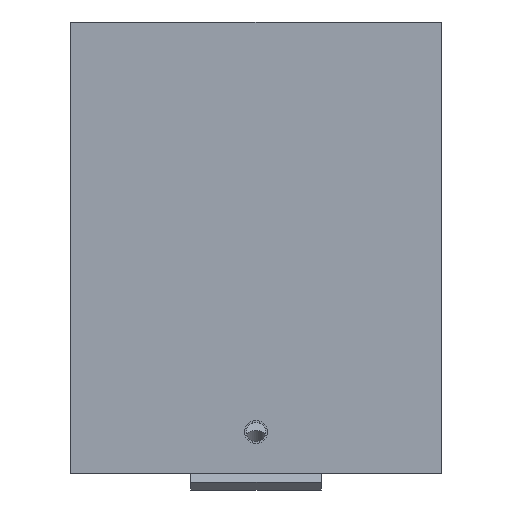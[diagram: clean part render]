
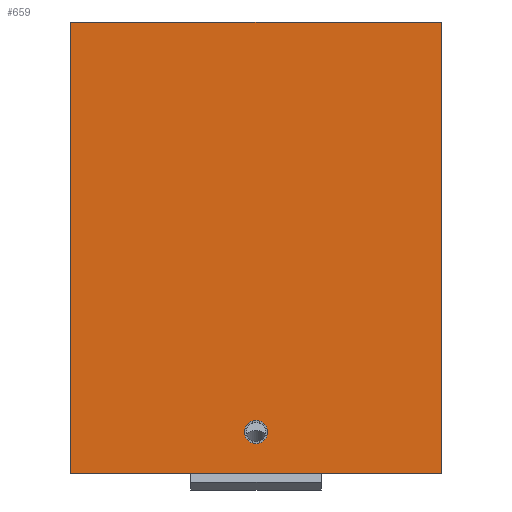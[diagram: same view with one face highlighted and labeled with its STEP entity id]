
A CAD part, top view. The second image highlights one B-rep face of the part: STEP entity #659.
In plain terms, the highlighted planar face has unit normal (0, 0, 1) as drawn and (0, 1, 0) by its records, which use the part's own axes.
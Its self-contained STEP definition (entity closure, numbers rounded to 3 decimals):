
#88 = PLANE('',#89);
#89 = AXIS2_PLACEMENT_3D('',#90,#91,#92);
#90 = CARTESIAN_POINT('',(-13.875,-34.,50.625));
#91 = DIRECTION('',(-1.,0.,0.));
#92 = DIRECTION('',(0.,0.,1.));
#120 = PLANE('',#121);
#121 = AXIS2_PLACEMENT_3D('',#122,#123,#124);
#122 = CARTESIAN_POINT('',(-12.375,-9.5,-1.125));
#123 = DIRECTION('',(0.,0.,1.));
#124 = DIRECTION('',(0.,-1.,0.));
#265 = VERTEX_POINT('',#266);
#266 = CARTESIAN_POINT('',(-13.875,2.,102.375));
#280 = PLANE('',#281);
#281 = AXIS2_PLACEMENT_3D('',#282,#283,#284);
#282 = CARTESIAN_POINT('',(-12.375,-58.5,102.375));
#283 = DIRECTION('',(0.,0.,-1.));
#284 = DIRECTION('',(0.,1.,0.));
#292 = EDGE_CURVE('',#265,#293,#295,.T.);
#293 = VERTEX_POINT('',#294);
#294 = CARTESIAN_POINT('',(-13.875,2.,-1.125));
#295 = SURFACE_CURVE('',#296,(#300,#307),.PCURVE_S1.);
#296 = LINE('',#297,#298);
#297 = CARTESIAN_POINT('',(-13.875,2.,24.75));
#298 = VECTOR('',#299,1.);
#299 = DIRECTION('',(0.,0.,-1.));
#300 = PCURVE('',#88,#301);
#301 = DEFINITIONAL_REPRESENTATION('',(#302),#306);
#302 = LINE('',#303,#304);
#303 = CARTESIAN_POINT('',(-25.875,36.));
#304 = VECTOR('',#305,1.);
#305 = DIRECTION('',(-1.,0.));
#306 = ( GEOMETRIC_REPRESENTATION_CONTEXT(2) 
PARAMETRIC_REPRESENTATION_CONTEXT() REPRESENTATION_CONTEXT('2D SPACE',''
  ) );
#307 = PCURVE('',#308,#313);
#308 = PLANE('',#309);
#309 = AXIS2_PLACEMENT_3D('',#310,#311,#312);
#310 = CARTESIAN_POINT('',(-2.375,2.,-1.125));
#311 = DIRECTION('',(0.,1.,0.));
#312 = DIRECTION('',(0.,0.,1.));
#313 = DEFINITIONAL_REPRESENTATION('',(#314),#318);
#314 = LINE('',#315,#316);
#315 = CARTESIAN_POINT('',(25.875,-11.5));
#316 = VECTOR('',#317,1.);
#317 = DIRECTION('',(-1.,0.));
#318 = ( GEOMETRIC_REPRESENTATION_CONTEXT(2) 
PARAMETRIC_REPRESENTATION_CONTEXT() REPRESENTATION_CONTEXT('2D SPACE',''
  ) );
#484 = VERTEX_POINT('',#485);
#485 = CARTESIAN_POINT('',(71.125,2.,-1.125));
#499 = PLANE('',#500);
#500 = AXIS2_PLACEMENT_3D('',#501,#502,#503);
#501 = CARTESIAN_POINT('',(71.125,-34.,50.625));
#502 = DIRECTION('',(-1.,0.,-0.));
#503 = DIRECTION('',(0.,0.,-1.));
#511 = EDGE_CURVE('',#293,#484,#512,.T.);
#512 = SURFACE_CURVE('',#513,(#517,#524),.PCURVE_S1.);
#513 = LINE('',#514,#515);
#514 = CARTESIAN_POINT('',(-13.875,2.,-1.125));
#515 = VECTOR('',#516,1.);
#516 = DIRECTION('',(1.,0.,0.));
#517 = PCURVE('',#120,#518);
#518 = DEFINITIONAL_REPRESENTATION('',(#519),#523);
#519 = LINE('',#520,#521);
#520 = CARTESIAN_POINT('',(-11.5,-1.5));
#521 = VECTOR('',#522,1.);
#522 = DIRECTION('',(0.,1.));
#523 = ( GEOMETRIC_REPRESENTATION_CONTEXT(2) 
PARAMETRIC_REPRESENTATION_CONTEXT() REPRESENTATION_CONTEXT('2D SPACE',''
  ) );
#524 = PCURVE('',#308,#525);
#525 = DEFINITIONAL_REPRESENTATION('',(#526),#530);
#526 = LINE('',#527,#528);
#527 = CARTESIAN_POINT('',(0.,-11.5));
#528 = VECTOR('',#529,1.);
#529 = DIRECTION('',(0.,1.));
#530 = ( GEOMETRIC_REPRESENTATION_CONTEXT(2) 
PARAMETRIC_REPRESENTATION_CONTEXT() REPRESENTATION_CONTEXT('2D SPACE',''
  ) );
#659 = ADVANCED_FACE('',(#660,#707),#308,.T.);
#660 = FACE_BOUND('',#661,.T.);
#661 = EDGE_LOOP('',(#662,#663,#664,#687));
#662 = ORIENTED_EDGE('',*,*,#511,.F.);
#663 = ORIENTED_EDGE('',*,*,#292,.F.);
#664 = ORIENTED_EDGE('',*,*,#665,.F.);
#665 = EDGE_CURVE('',#666,#265,#668,.T.);
#666 = VERTEX_POINT('',#667);
#667 = CARTESIAN_POINT('',(71.125,2.,102.375));
#668 = SURFACE_CURVE('',#669,(#673,#680),.PCURVE_S1.);
#669 = LINE('',#670,#671);
#670 = CARTESIAN_POINT('',(71.125,2.,102.375));
#671 = VECTOR('',#672,1.);
#672 = DIRECTION('',(-1.,0.,0.));
#673 = PCURVE('',#308,#674);
#674 = DEFINITIONAL_REPRESENTATION('',(#675),#679);
#675 = LINE('',#676,#677);
#676 = CARTESIAN_POINT('',(103.5,73.5));
#677 = VECTOR('',#678,1.);
#678 = DIRECTION('',(0.,-1.));
#679 = ( GEOMETRIC_REPRESENTATION_CONTEXT(2) 
PARAMETRIC_REPRESENTATION_CONTEXT() REPRESENTATION_CONTEXT('2D SPACE',''
  ) );
#680 = PCURVE('',#280,#681);
#681 = DEFINITIONAL_REPRESENTATION('',(#682),#686);
#682 = LINE('',#683,#684);
#683 = CARTESIAN_POINT('',(60.5,83.5));
#684 = VECTOR('',#685,1.);
#685 = DIRECTION('',(0.,-1.));
#686 = ( GEOMETRIC_REPRESENTATION_CONTEXT(2) 
PARAMETRIC_REPRESENTATION_CONTEXT() REPRESENTATION_CONTEXT('2D SPACE',''
  ) );
#687 = ORIENTED_EDGE('',*,*,#688,.F.);
#688 = EDGE_CURVE('',#484,#666,#689,.T.);
#689 = SURFACE_CURVE('',#690,(#694,#700),.PCURVE_S1.);
#690 = LINE('',#691,#692);
#691 = CARTESIAN_POINT('',(71.125,2.,24.75));
#692 = VECTOR('',#693,1.);
#693 = DIRECTION('',(0.,0.,1.));
#694 = PCURVE('',#308,#695);
#695 = DEFINITIONAL_REPRESENTATION('',(#696),#699);
#696 = B_SPLINE_CURVE_WITH_KNOTS('',1,(#697,#698),.UNSPECIFIED.,.F.,.F.,
  (2,2),(-130.689,182.439),.PIECEWISE_BEZIER_KNOTS.);
#697 = CARTESIAN_POINT('',(-104.814,73.5));
#698 = CARTESIAN_POINT('',(208.314,73.5));
#699 = ( GEOMETRIC_REPRESENTATION_CONTEXT(2) 
PARAMETRIC_REPRESENTATION_CONTEXT() REPRESENTATION_CONTEXT('2D SPACE',''
  ) );
#700 = PCURVE('',#499,#701);
#701 = DEFINITIONAL_REPRESENTATION('',(#702),#706);
#702 = LINE('',#703,#704);
#703 = CARTESIAN_POINT('',(25.875,-36.));
#704 = VECTOR('',#705,1.);
#705 = DIRECTION('',(-1.,0.));
#706 = ( GEOMETRIC_REPRESENTATION_CONTEXT(2) 
PARAMETRIC_REPRESENTATION_CONTEXT() REPRESENTATION_CONTEXT('2D SPACE',''
  ) );
#707 = FACE_BOUND('',#708,.T.);
#708 = EDGE_LOOP('',(#709));
#709 = ORIENTED_EDGE('',*,*,#710,.T.);
#710 = EDGE_CURVE('',#711,#711,#713,.T.);
#711 = VERTEX_POINT('',#712);
#712 = CARTESIAN_POINT('',(28.625,2.,5.725));
#713 = SURFACE_CURVE('',#714,(#719,#730),.PCURVE_S1.);
#714 = CIRCLE('',#715,2.65);
#715 = AXIS2_PLACEMENT_3D('',#716,#717,#718);
#716 = CARTESIAN_POINT('',(28.625,2.,8.375));
#717 = DIRECTION('',(0.,-1.,0.));
#718 = DIRECTION('',(0.,0.,-1.));
#719 = PCURVE('',#308,#720);
#720 = DEFINITIONAL_REPRESENTATION('',(#721),#729);
#721 = ( BOUNDED_CURVE() B_SPLINE_CURVE(2,(#722,#723,#724,#725,#726,#727
,#728),.UNSPECIFIED.,.T.,.F.) B_SPLINE_CURVE_WITH_KNOTS((1,2,2,2,2,1),(
    -2.094,0.,2.094,4.189,6.283,
8.378),.UNSPECIFIED.) CURVE() GEOMETRIC_REPRESENTATION_ITEM() 
RATIONAL_B_SPLINE_CURVE((1.,0.5,1.,0.5,1.,0.5,1.)) REPRESENTATION_ITEM(
  '') );
#722 = CARTESIAN_POINT('',(6.85,31.));
#723 = CARTESIAN_POINT('',(6.85,35.59));
#724 = CARTESIAN_POINT('',(10.825,33.295));
#725 = CARTESIAN_POINT('',(14.8,31.));
#726 = CARTESIAN_POINT('',(10.825,28.705));
#727 = CARTESIAN_POINT('',(6.85,26.41));
#728 = CARTESIAN_POINT('',(6.85,31.));
#729 = ( GEOMETRIC_REPRESENTATION_CONTEXT(2) 
PARAMETRIC_REPRESENTATION_CONTEXT() REPRESENTATION_CONTEXT('2D SPACE',''
  ) );
#730 = PCURVE('',#731,#736);
#731 = CYLINDRICAL_SURFACE('',#732,2.65);
#732 = AXIS2_PLACEMENT_3D('',#733,#734,#735);
#733 = CARTESIAN_POINT('',(28.625,-4.625,8.375));
#734 = DIRECTION('',(0.,-1.,0.));
#735 = DIRECTION('',(0.,0.,-1.));
#736 = DEFINITIONAL_REPRESENTATION('',(#737),#741);
#737 = LINE('',#738,#739);
#738 = CARTESIAN_POINT('',(0.,-6.625));
#739 = VECTOR('',#740,1.);
#740 = DIRECTION('',(1.,0.));
#741 = ( GEOMETRIC_REPRESENTATION_CONTEXT(2) 
PARAMETRIC_REPRESENTATION_CONTEXT() REPRESENTATION_CONTEXT('2D SPACE',''
  ) );
